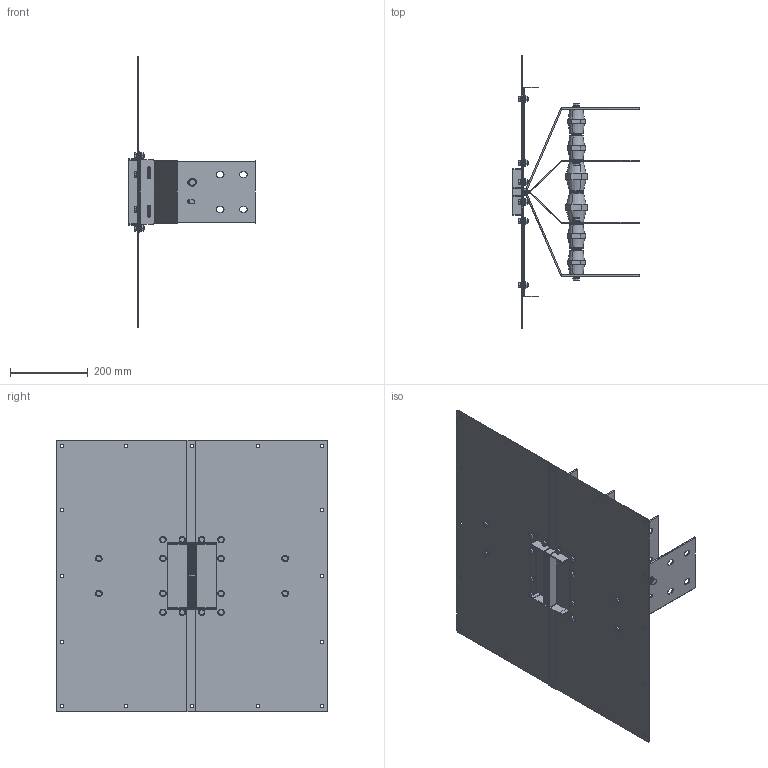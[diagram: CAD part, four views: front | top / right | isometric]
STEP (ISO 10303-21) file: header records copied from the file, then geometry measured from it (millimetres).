
FILE_DESCRIPTION(('CATIA V5 STEP','CAx-IF Rec.Pracs.--- Model Styling and Organization---1.5--- 2016-08-15','CAx-IF Rec.Pracs.---Supplemental Geometry---1.0---2011-11-01','CAx-IF Rec.Pracs.--- Composite Materials ---1.1---2010-07-15'),'2;1');
FILE_NAME('K:\COSCN 2011\32372311_RiduzioneSezioniBarre\03_Studio\__Modelli semplificati\XCP_UB semplificati per studi\XCP-S_UB_4C_Pe_CRT_Assieme\Cu\XCP-S_UB_4C_Pe_S_Assieme - 1600A Cu_CRT\XCP-S_UB_4C_Pe_S_Assieme - 1600A Cu_CRT.stp','2025-05-12T13:03:55+00:00',('Utente Bticino'),('Bticino S.p.A.'),'CATIA Version 5-6 Release 2020 SP5','CATIA V5 STEP AP214 v2','none');
FILE_SCHEMA(('AUTOMOTIVE_DESIGN { 1 0 10303 214 1 1 1 1 }'));
Length unit declared in the file: millimetre
Products named in the file (20): XCP-S_UB_4C_Pe_S_Assieme - 1600A Cu_CRT; XCP-S_UB_4C_Pe_S_PaccoBarre_1600A Cu_CRT; XCP-S_UB_4C_Pe_S_Lamiere_1600A Cu_CRT; Ass_M10x25.1; 00740025 M10x25 UNI5739; Rondella spac M10 UNI 1751; 00750005; 130006; 130184; 130006_1; 130184_1; 130006_2; 130006_3; 00750033 - RONDELLA PIANA 4.8 D.12 UNI 6592 ZB; 00750033 - RONDELLA PIANA 4.8 D.12 UNI 6592 ZB_1; 00750033 - RONDELLA PIANA 4.8 D.12 UNI 6592 ZB_2; Viteria UB H130; Ass Vite+dado M8; Steel hex flanged SCREW M12x16; Steel hex flanged NUT M8
Assembly tree (39 placements, depth 4):
  XCP-S_UB_4C_Pe_S_Assieme - 1600A Cu_CRT
    XCP-S_UB_4C_Pe_S_PaccoBarre_1600A Cu_CRT
    XCP-S_UB_4C_Pe_S_Lamiere_1600A Cu_CRT
    Ass_M10x25.1  x6
      00740025 M10x25 UNI5739
      Rondella spac M10 UNI 1751
      00750005
    130006
    130184
    130006_1
    130184_1
    130006_2
    130006_3
    00750033 - RONDELLA PIANA 4.8 D.12 UNI 6592 ZB
    00750033 - RONDELLA PIANA 4.8 D.12 UNI 6592 ZB_1
    00750033 - RONDELLA PIANA 4.8 D.12 UNI 6592 ZB_2
    Viteria UB H130
      Ass Vite+dado M8  x16
        Steel hex flanged SCREW M12x16
        Steel hex flanged NUT M8
Bounding box: 325 x 700 x 700 mm (x, y, z)
Volume: 2667371.6 mm3; surface area: 1956071.5 mm2
Topology: 73 solids, 73 shells, 1652 faces, 3956 edges, 2488 vertices
Faces by surface type: plane 728, cylinder 484, cone 200, bspline 176, torus 64
Entity records: 23554 total; most frequent: CARTESIAN_POINT 5158, ORIENTED_EDGE 3904, DIRECTION 3090, EDGE_CURVE 1952, AXIS2_PLACEMENT_3D 1350, VERTEX_POINT 1248, VECTOR 1124, LINE 1124
